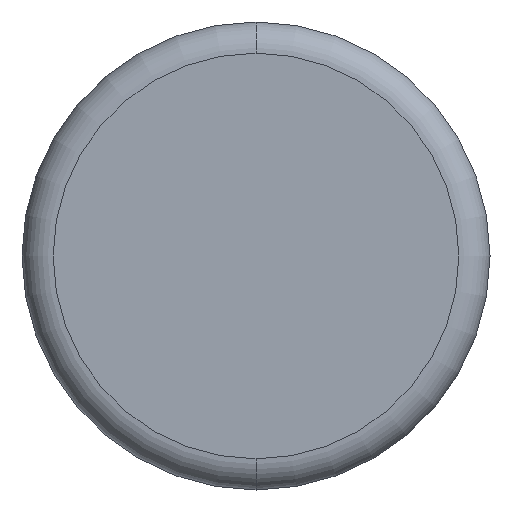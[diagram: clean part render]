
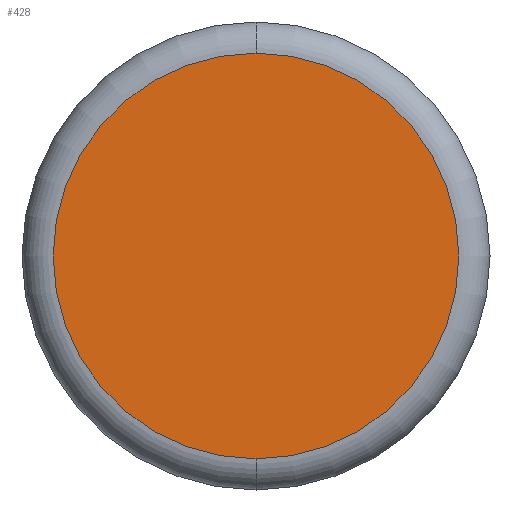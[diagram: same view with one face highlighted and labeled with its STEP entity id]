
A CAD part, front view. The second image highlights one B-rep face of the part: STEP entity #428.
In plain terms, the highlighted planar face has unit normal (0, -1, 0).
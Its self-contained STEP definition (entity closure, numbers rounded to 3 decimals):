
#60 = DIRECTION ( 'NONE',  ( 0., 0., 1. ) ) ;
#119 = PLANE ( 'NONE',  #520 ) ;
#120 = VERTEX_POINT ( 'NONE', #911 ) ;
#157 = ORIENTED_EDGE ( 'NONE', *, *, #248, .T. ) ;
#179 = CARTESIAN_POINT ( 'NONE',  ( 0., 0., 0. ) ) ;
#231 = CARTESIAN_POINT ( 'NONE',  ( 0., 0., 0. ) ) ;
#248 = EDGE_CURVE ( 'NONE', #120, #643, #503, .T. ) ;
#253 = AXIS2_PLACEMENT_3D ( 'NONE', #231, #444, #519 ) ;
#278 = CARTESIAN_POINT ( 'NONE',  ( 0., 0., 0. ) ) ;
#320 = AXIS2_PLACEMENT_3D ( 'NONE', #278, #699, #60 ) ;
#383 = ORIENTED_EDGE ( 'NONE', *, *, #498, .T. ) ;
#412 = EDGE_LOOP ( 'NONE', ( #157, #383 ) ) ;
#428 = ADVANCED_FACE ( 'NONE', ( #610 ), #119, .F. ) ;
#444 = DIRECTION ( 'NONE',  ( 0., -1., 0. ) ) ;
#451 = CIRCLE ( 'NONE', #320, 2.6 ) ;
#498 = EDGE_CURVE ( 'NONE', #643, #120, #451, .T. ) ;
#503 = CIRCLE ( 'NONE', #253, 2.6 ) ;
#504 = CARTESIAN_POINT ( 'NONE',  ( 0., 0., -2.6 ) ) ;
#519 = DIRECTION ( 'NONE',  ( 0., 0., 1. ) ) ;
#520 = AXIS2_PLACEMENT_3D ( 'NONE', #179, #529, #750 ) ;
#529 = DIRECTION ( 'NONE',  ( 0., 1., 0. ) ) ;
#610 = FACE_OUTER_BOUND ( 'NONE', #412, .T. ) ;
#643 = VERTEX_POINT ( 'NONE', #504 ) ;
#699 = DIRECTION ( 'NONE',  ( 0., -1., 0. ) ) ;
#750 = DIRECTION ( 'NONE',  ( 0., 0., 1. ) ) ;
#911 = CARTESIAN_POINT ( 'NONE',  ( 0., 0., 2.6 ) ) ;
